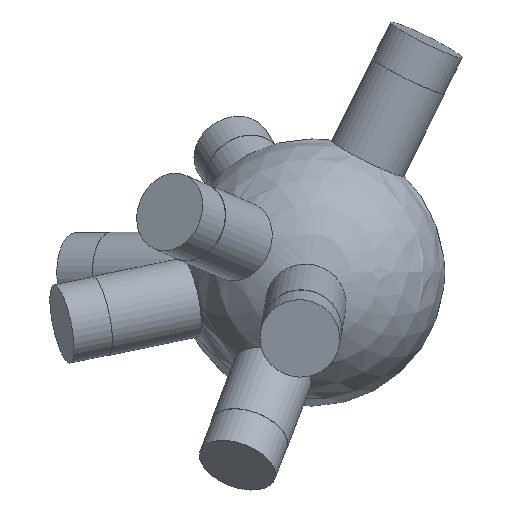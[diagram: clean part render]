
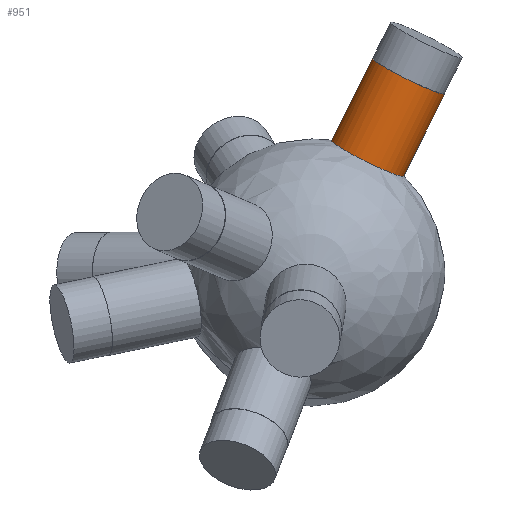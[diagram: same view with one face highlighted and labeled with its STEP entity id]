
A CAD part, top view. The second image highlights one B-rep face of the part: STEP entity #951.
In plain terms, the highlighted cylindrical face has radius 6 mm (diameter 12 mm), a full revolution.
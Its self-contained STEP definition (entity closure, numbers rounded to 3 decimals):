
#33 = SPHERICAL_SURFACE('',#34,20.);
#34 = AXIS2_PLACEMENT_3D('',#35,#36,#37);
#35 = CARTESIAN_POINT('',(0.,0.,0.));
#36 = DIRECTION('',(0.,0.,1.));
#37 = DIRECTION('',(1.,0.,-0.));
#409 = EDGE_CURVE('',#410,#410,#412,.T.);
#410 = VERTEX_POINT('',#411);
#411 = CARTESIAN_POINT('',(13.818,14.356,
    1.729));
#412 = SURFACE_CURVE('',#413,(#418,#480),.PCURVE_S1.);
#413 = CIRCLE('',#414,6.);
#414 = AXIS2_PLACEMENT_3D('',#415,#416,#417);
#415 = CARTESIAN_POINT('',(8.443,17.022,1.729
    ));
#416 = DIRECTION('',(0.443,0.892,0.091));
#417 = DIRECTION('',(-0.896,0.444,0.));
#418 = PCURVE('',#33,#419);
#419 = DEFINITIONAL_REPRESENTATION('',(#420),#479);
#420 = B_SPLINE_CURVE_WITH_KNOTS('',8,(#421,#422,#423,#424,#425,#426,
    #427,#428,#429,#430,#431,#432,#433,#434,#435,#436,#437,#438,#439,
    #440,#441,#442,#443,#444,#445,#446,#447,#448,#449,#450,#451,#452,
    #453,#454,#455,#456,#457,#458,#459,#460,#461,#462,#463,#464,#465,
    #466,#467,#468,#469,#470,#471,#472,#473,#474,#475,#476,#477,#478),
  .UNSPECIFIED.,.F.,.F.,(9,7,7,7,7,7,7,7,9),(3.142,
    3.927,4.614,5.216,6.268,
    7.057,7.649,8.537,9.425),
  .UNSPECIFIED.);
#421 = CARTESIAN_POINT('',(0.804,0.087));
#422 = CARTESIAN_POINT('',(0.805,0.057));
#423 = CARTESIAN_POINT('',(0.809,0.028));
#424 = CARTESIAN_POINT('',(0.816,-0.001));
#425 = CARTESIAN_POINT('',(0.826,-0.029));
#426 = CARTESIAN_POINT('',(0.84,-0.056));
#427 = CARTESIAN_POINT('',(0.855,-0.081));
#428 = CARTESIAN_POINT('',(0.874,-0.104));
#429 = CARTESIAN_POINT('',(0.913,-0.143));
#430 = CARTESIAN_POINT('',(0.933,-0.16));
#431 = CARTESIAN_POINT('',(0.955,-0.175));
#432 = CARTESIAN_POINT('',(0.978,-0.187));
#433 = CARTESIAN_POINT('',(1.003,-0.197));
#434 = CARTESIAN_POINT('',(1.028,-0.205));
#435 = CARTESIAN_POINT('',(1.054,-0.21));
#436 = CARTESIAN_POINT('',(1.103,-0.215));
#437 = CARTESIAN_POINT('',(1.126,-0.215));
#438 = CARTESIAN_POINT('',(1.15,-0.213));
#439 = CARTESIAN_POINT('',(1.172,-0.21));
#440 = CARTESIAN_POINT('',(1.195,-0.204));
#441 = CARTESIAN_POINT('',(1.217,-0.197));
#442 = CARTESIAN_POINT('',(1.238,-0.187));
#443 = CARTESIAN_POINT('',(1.293,-0.157));
#444 = CARTESIAN_POINT('',(1.325,-0.133));
#445 = CARTESIAN_POINT('',(1.353,-0.103));
#446 = CARTESIAN_POINT('',(1.376,-0.071));
#447 = CARTESIAN_POINT('',(1.394,-0.035));
#448 = CARTESIAN_POINT('',(1.407,0.003));
#449 = CARTESIAN_POINT('',(1.414,0.043));
#450 = CARTESIAN_POINT('',(1.417,0.112));
#451 = CARTESIAN_POINT('',(1.415,0.141));
#452 = CARTESIAN_POINT('',(1.41,0.171));
#453 = CARTESIAN_POINT('',(1.402,0.199));
#454 = CARTESIAN_POINT('',(1.39,0.227));
#455 = CARTESIAN_POINT('',(1.375,0.253));
#456 = CARTESIAN_POINT('',(1.358,0.278));
#457 = CARTESIAN_POINT('',(1.321,0.316));
#458 = CARTESIAN_POINT('',(1.304,0.332));
#459 = CARTESIAN_POINT('',(1.286,0.345));
#460 = CARTESIAN_POINT('',(1.266,0.358));
#461 = CARTESIAN_POINT('',(1.245,0.368));
#462 = CARTESIAN_POINT('',(1.223,0.377));
#463 = CARTESIAN_POINT('',(1.2,0.384));
#464 = CARTESIAN_POINT('',(1.141,0.396));
#465 = CARTESIAN_POINT('',(1.105,0.399));
#466 = CARTESIAN_POINT('',(1.068,0.397));
#467 = CARTESIAN_POINT('',(1.032,0.391));
#468 = CARTESIAN_POINT('',(0.998,0.38));
#469 = CARTESIAN_POINT('',(0.965,0.365));
#470 = CARTESIAN_POINT('',(0.936,0.346));
#471 = CARTESIAN_POINT('',(0.883,0.302));
#472 = CARTESIAN_POINT('',(0.86,0.276));
#473 = CARTESIAN_POINT('',(0.841,0.248));
#474 = CARTESIAN_POINT('',(0.825,0.218));
#475 = CARTESIAN_POINT('',(0.814,0.186));
#476 = CARTESIAN_POINT('',(0.807,0.153));
#477 = CARTESIAN_POINT('',(0.804,0.12));
#478 = CARTESIAN_POINT('',(0.804,0.087));
#479 = ( GEOMETRIC_REPRESENTATION_CONTEXT(2) 
PARAMETRIC_REPRESENTATION_CONTEXT() REPRESENTATION_CONTEXT('2D SPACE',''
  ) );
#480 = PCURVE('',#481,#486);
#481 = CYLINDRICAL_SURFACE('',#482,6.);
#482 = AXIS2_PLACEMENT_3D('',#483,#484,#485);
#483 = CARTESIAN_POINT('',(0.,0.,0.));
#484 = DIRECTION('',(0.443,0.892,0.091));
#485 = DIRECTION('',(0.896,-0.444,0.));
#486 = DEFINITIONAL_REPRESENTATION('',(#487),#491);
#487 = LINE('',#488,#489);
#488 = CARTESIAN_POINT('',(-3.142,19.079));
#489 = VECTOR('',#490,1.);
#490 = DIRECTION('',(1.,0.));
#491 = ( GEOMETRIC_REPRESENTATION_CONTEXT(2) 
PARAMETRIC_REPRESENTATION_CONTEXT() REPRESENTATION_CONTEXT('2D SPACE',''
  ) );
#951 = ADVANCED_FACE('',(#952),#481,.T.);
#952 = FACE_BOUND('',#953,.T.);
#953 = EDGE_LOOP('',(#954,#977,#1004,#1005));
#954 = ORIENTED_EDGE('',*,*,#955,.T.);
#955 = EDGE_CURVE('',#410,#956,#958,.T.);
#956 = VERTEX_POINT('',#957);
#957 = CARTESIAN_POINT('',(19.912,26.643,
    2.977));
#958 = SEAM_CURVE('',#959,(#963,#970),.PCURVE_S1.);
#959 = LINE('',#960,#961);
#960 = CARTESIAN_POINT('',(5.375,-2.666,
    0.));
#961 = VECTOR('',#962,1.);
#962 = DIRECTION('',(0.443,0.892,0.091));
#963 = PCURVE('',#481,#964);
#964 = DEFINITIONAL_REPRESENTATION('',(#965),#969);
#965 = LINE('',#966,#967);
#966 = CARTESIAN_POINT('',(6.283,-0.));
#967 = VECTOR('',#968,1.);
#968 = DIRECTION('',(0.,1.));
#969 = ( GEOMETRIC_REPRESENTATION_CONTEXT(2) 
PARAMETRIC_REPRESENTATION_CONTEXT() REPRESENTATION_CONTEXT('2D SPACE',''
  ) );
#970 = PCURVE('',#481,#971);
#971 = DEFINITIONAL_REPRESENTATION('',(#972),#976);
#972 = LINE('',#973,#974);
#973 = CARTESIAN_POINT('',(0.,-0.));
#974 = VECTOR('',#975,1.);
#975 = DIRECTION('',(0.,1.));
#976 = ( GEOMETRIC_REPRESENTATION_CONTEXT(2) 
PARAMETRIC_REPRESENTATION_CONTEXT() REPRESENTATION_CONTEXT('2D SPACE',''
  ) );
#977 = ORIENTED_EDGE('',*,*,#978,.F.);
#978 = EDGE_CURVE('',#956,#956,#979,.T.);
#979 = SURFACE_CURVE('',#980,(#985,#992),.PCURVE_S1.);
#980 = CIRCLE('',#981,6.);
#981 = AXIS2_PLACEMENT_3D('',#982,#983,#984);
#982 = CARTESIAN_POINT('',(14.537,29.309,2.977
    ));
#983 = DIRECTION('',(0.443,0.892,0.091));
#984 = DIRECTION('',(0.896,-0.444,0.)
  );
#985 = PCURVE('',#481,#986);
#986 = DEFINITIONAL_REPRESENTATION('',(#987),#991);
#987 = LINE('',#988,#989);
#988 = CARTESIAN_POINT('',(0.,32.852));
#989 = VECTOR('',#990,1.);
#990 = DIRECTION('',(1.,0.));
#991 = ( GEOMETRIC_REPRESENTATION_CONTEXT(2) 
PARAMETRIC_REPRESENTATION_CONTEXT() REPRESENTATION_CONTEXT('2D SPACE',''
  ) );
#992 = PCURVE('',#993,#998);
#993 = PLANE('',#994);
#994 = AXIS2_PLACEMENT_3D('',#995,#996,#997);
#995 = CARTESIAN_POINT('',(14.537,29.309,2.977
    ));
#996 = DIRECTION('',(0.443,0.892,0.091));
#997 = DIRECTION('',(0.896,-0.444,0.));
#998 = DEFINITIONAL_REPRESENTATION('',(#999),#1003);
#999 = CIRCLE('',#1000,6.);
#1000 = AXIS2_PLACEMENT_2D('',#1001,#1002);
#1001 = CARTESIAN_POINT('',(0.,0.));
#1002 = DIRECTION('',(1.,0.));
#1003 = ( GEOMETRIC_REPRESENTATION_CONTEXT(2) 
PARAMETRIC_REPRESENTATION_CONTEXT() REPRESENTATION_CONTEXT('2D SPACE',''
  ) );
#1004 = ORIENTED_EDGE('',*,*,#955,.F.);
#1005 = ORIENTED_EDGE('',*,*,#409,.T.);
